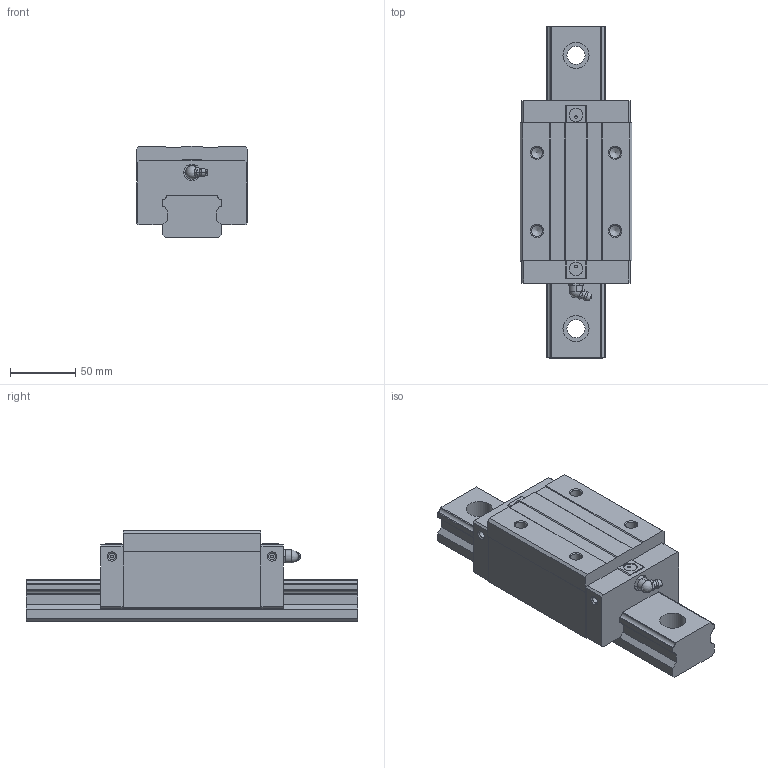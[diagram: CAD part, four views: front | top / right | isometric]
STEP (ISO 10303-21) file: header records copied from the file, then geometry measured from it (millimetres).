
FILE_DESCRIPTION(/* description */ (''),/* implementation_level */ '2;1');
FILE_NAME(/* name */ 'SME45-SA',/* time_stamp */ '2008-10-06T10:42:08+08:00',/* author */ (''),/* organization */ (''),/* preprocessor_version */ 'ST-DEVELOPER v11',/* originating_system */ 'UGS - NX 5.0',/* authorisation */ '');
FILE_SCHEMA (('AUTOMOTIVE_DESIGN { 1 0 10303 214 1 1 1 1 }'));
Length unit declared in the file: millimetre
Products named in the file (1): jillBD1Calq4
Bounding box: 86 x 255 x 70 mm (x, y, z)
Volume: 869794.8 mm3; surface area: 104877.2 mm2
Topology: 3 solids, 3 shells, 186 faces, 463 edges, 301 vertices
Faces by surface type: plane 110, cylinder 48, cone 14, torus 10, bspline 2, sphere 2
Full cylindrical faces by diameter (mm): 2 x6, 5.2 x4, 8.5 x4, 10.2 x4, 13 x2, 14 x3, 20 x3
Entity records: 5676 total; most frequent: CARTESIAN_POINT 1081, DIRECTION 888, ORIENTED_EDGE 822, EDGE_CURVE 411, AXIS2_PLACEMENT_3D 316, VERTEX_POINT 293, LINE 256, VECTOR 256
